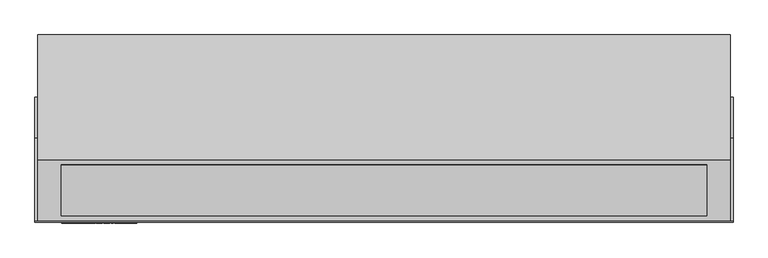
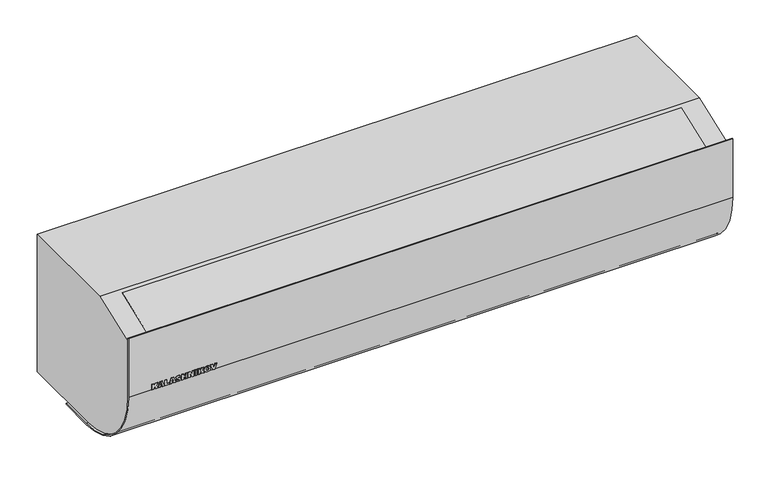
"""IFC4 building model written with IfcOpenShell, lengths in millimetres: proxy geometry, ИЗТТ_Завеса_Электрическая : KVC-C10E12-31."""

from ifc_helpers import new_model, si_unit, point, frame, frame_2d, origin, place, context, project, spatial, polyline, circle_curve, trimmed, segment, composite_curve, outline, extrude, source, transform, mapped, element, save
from ifc_brep_helpers import plane_surface, cylinder_surface, advanced_brep


def mechanical_equipment_031cc24c(model_context):
    return source(origin(), model_context, "Body", "SolidModel", [
        extrude(outline(polyline([(139.0, -491.5196078), (129.0, -491.5196078), (129.0, -488.3823529), (130.7647059, -488.3823529), (132.7745098, -486.6115196), (129.0, -484.7794118), (129.0, -480.9313725), (135.2775735, -484.4056373), (139.0, -481.127451), (139.0, -485.3982843), (135.2224265, -488.3823529), (139.0, -488.3823529), (139.0, -491.5196078)])), frame((0.0, -287.0, 0.0), z_axis=(0.0, 1.0, 0.0), x_axis=(0.0, 0.0, 1.0)), (0.0, 0.0, 1.0), 1.0),
        extrude(outline(polyline([(130.5686275, -473.9338235), (129.0, -473.4803922), (129.0, -470.1470588), (139.0, -473.5202206), (139.0, -477.5582108), (129.0, -480.9313725), (129.0, -477.5980392), (130.5686275, -477.1660539), (130.5686275, -473.9338235)]), holes=[polyline([(132.9215686, -474.5281863), (132.9215686, -476.5165441), (136.4540441, -475.5392157), (132.9215686, -474.5281863)])]), frame((0.0, -287.0, 0.0), z_axis=(0.0, 1.0, 0.0), x_axis=(0.0, 0.0, 1.0)), (0.0, 0.0, 1.0), 1.0),
        extrude(outline(polyline([(139.0, -469.1666667), (129.0, -469.1666667), (129.0, -461.3235294), (131.3529412, -461.3235294), (131.3529412, -466.0294118), (139.0, -466.0294118), (139.0, -469.1666667)])), frame((0.0, -287.0, 0.0), z_axis=(0.0, 1.0, 0.0), x_axis=(0.0, 0.0, 1.0)), (0.0, 0.0, 1.0), 1.0),
        extrude(outline(polyline([(130.5686275, -453.9338235), (129.0, -453.4803922), (129.0, -450.1470588), (139.0, -453.5202206), (139.0, -457.5582108), (129.0, -460.9313725), (129.0, -457.5980392), (130.5686275, -457.1660539), (130.5686275, -453.9338235)]), holes=[polyline([(132.9215686, -454.5281863), (132.9215686, -456.5165441), (136.4540441, -455.5392157), (132.9215686, -454.5281863)])]), frame((0.0, -287.0, 0.0), z_axis=(0.0, 1.0, 0.0), x_axis=(0.0, 0.0, 1.0)), (0.0, 0.0, 1.0), 1.0),
        extrude(outline(polyline([(132.3394608, -449.754902), (129.8026961, -448.6488971), (128.8039216, -445.1378676), (129.2297794, -442.7420343), (130.4813113, -441.2637868), (132.28125, -440.7352941), (133.7870711, -441.1305147), (134.9129902, -442.3958333), (135.8106618, -445.2757353), (137.4313725, -445.4074755), (137.1050858, -444.6338848), (136.0588235, -444.2647059), (136.2395833, -441.127451), (138.4883578, -442.3054534), (139.1960784, -445.1807598), (138.8039216, -447.6011029), (137.7285539, -448.9231005), (136.276348, -449.3627451), (134.3492647, -448.4957108), (133.1237745, -445.6219363), (131.8186275, -443.872549), (131.0818015, -444.1865809), (130.7647059, -445.0796569), (131.3958333, -446.2775735), (132.5294118, -446.6176471), (132.3394608, -449.754902)])), frame((0.0, -287.0, 0.0), z_axis=(0.0, 1.0, 0.0), x_axis=(0.0, 0.0, 1.0)), (0.0, 0.0, 1.0), 1.0),
        extrude(outline(polyline([(139.0, -439.1666667), (129.0, -439.1666667), (129.0, -436.0294118), (133.1176471, -436.0294118), (133.1176471, -432.6960784), (129.0, -432.6960784), (129.0, -429.5588235), (139.0, -429.5588235), (139.0, -432.6960784), (135.4705882, -432.6960784), (135.4705882, -436.0294118), (139.0, -436.0294118), (139.0, -439.1666667)])), frame((0.0, -287.0, 0.0), z_axis=(0.0, 1.0, 0.0), x_axis=(0.0, 0.0, 1.0)), (0.0, 0.0, 1.0), 1.0),
        extrude(outline(polyline([(139.0, -427.5980392), (129.0, -427.5980392), (129.0, -424.6568627), (134.4901961, -424.6568627), (129.0, -420.9313725), (129.0, -417.9901961), (139.0, -417.9901961), (139.0, -420.9313725), (133.4730392, -420.9313725), (139.0, -424.6783088), (139.0, -427.5980392)])), frame((0.0, -287.0, 0.0), z_axis=(0.0, 1.0, 0.0), x_axis=(0.0, 0.0, 1.0)), (0.0, 0.0, 1.0), 1.0),
        extrude(outline(polyline([(-412.6960784, -287.0), (-415.8333333, -287.0), (-415.8333333, -286.0), (-412.6960784, -286.0), (-412.6960784, -287.0)])), frame((0.0, 0.0, 129.0), z_axis=(0.0, 0.0, 1.0), x_axis=(1.0, 0.0, 0.0)), (0.0, 0.0, 1.0), 10.0),
        extrude(outline(polyline([(139.0, -410.5392157), (129.0, -410.5392157), (129.0, -407.4019608), (130.7647059, -407.4019608), (132.7745098, -405.6311275), (129.0, -403.7990196), (129.0, -399.9509804), (135.2775735, -403.4252451), (139.0, -400.1470588), (139.0, -404.4178922), (135.2224265, -407.4019608), (139.0, -407.4019608), (139.0, -410.5392157)])), frame((0.0, -287.0, 0.0), z_axis=(0.0, 1.0, 0.0), x_axis=(0.0, 0.0, 1.0)), (0.0, 0.0, 1.0), 1.0),
        extrude(outline(polyline([(133.9938725, -399.3627451), (131.0603554, -398.671875), (129.346201, -396.8688725), (128.8039216, -394.0594363), (129.4304534, -391.2729779), (131.1859681, -389.5618873), (134.0765931, -388.9705882), (137.8495711, -390.3247549), (139.1960784, -394.185049), (137.8250613, -397.9947917), (133.9938725, -399.3627451)]), holes=[polyline([(133.9938725, -396.2254902), (136.1813725, -395.6678922), (136.8431373, -394.1911765), (136.1920956, -392.6685049), (134.1286765, -392.1078431), (131.8048407, -392.645527), (131.1568627, -394.1636029), (131.8186275, -395.6709559), (133.9938725, -396.2254902)])]), frame((0.0, -287.0, 0.0), z_axis=(0.0, 1.0, 0.0), x_axis=(0.0, 0.0, 1.0)), (0.0, 0.0, 1.0), 1.0),
        extrude(outline(polyline([(139.0, -388.1862745), (129.0, -384.4699755), (129.0, -381.1397059), (139.0, -377.4019608), (139.0, -380.7352941), (131.8033088, -382.7941176), (139.0, -384.8560049), (139.0, -388.1862745)])), frame((0.0, -287.0, 0.0), z_axis=(0.0, 1.0, 0.0), x_axis=(0.0, 0.0, 1.0)), (0.0, 0.0, 1.0), 1.0),
        extrude(outline(polyline([(-19.2222222, 10.0), (-19.2222222, 0.0), (-34.4444444, 10.0), (-34.4444444, 0.0), (-49.6666667, 10.0), (-49.6666667, 0.0), (-64.8888889, 10.0), (-64.8888889, 0.0), (-80.1111111, 10.0), (-80.1111111, 0.0), (-95.2499831, 10.5360909), (-4.0, 10.5360909), (-4.0, 0.0), (-19.2222222, 10.0)])), frame((-492.5, 0.0, 0.0), z_axis=(1.0, 0.0, 0.0), x_axis=(0.0, 1.0, 0.0)), (0.0, 0.0, 1.0), 985.0),
        advanced_brep(
        [(528.5, -190.6666667, 258.0), (528.5, -284.0, 223.0), (528.5, -284.0, 129.0), (528.5, -157.0, 2.0), (528.5, 0.0, 2.0), (528.5, 0.0, 258.0), (-528.5, -190.6666667, 258.0), (-528.5, 0.0, 258.0), (-528.5, 0.0, 2.0), (-528.5, -157.0, 2.0), (-528.5, -284.0, 129.0), (-528.5, -284.0, 223.0), (492.5, -4.0, 2.0), (-492.5, -4.0, 2.0), (-492.5, -95.3333333, 2.0), (492.5, -95.3333333, 2.0), (492.5, -4.0, 10.0), (492.5, -95.3333333, 10.0), (-492.5, -95.3333333, 10.0), (-492.5, -4.0, 10.0)],
        [
            (0, 1),
            (1, 2),
            (2, 3, circle_curve(frame((528.5, -157.0, 129.0), z_axis=(1.0, 0.0, 0.0), x_axis=(0.0, 1.0, 0.0)), 127.0)),
            (3, 4),
            (4, 5),
            (5, 0),
            (6, 7),
            (7, 8),
            (8, 9),
            (9, 10, circle_curve(frame((-528.5, -157.0, 129.0), z_axis=(-1.0, 0.0, 0.0), x_axis=(0.0, 1.0, 0.0)), 127.0)),
            (10, 11),
            (11, 6),
            (1, 11),
            (10, 2),
            (4, 8),
            (7, 5),
            (6, 0),
            (9, 3),
            (12, 13),
            (13, 14),
            (14, 15),
            (15, 12),
            (16, 17),
            (17, 18),
            (18, 19),
            (19, 16),
            (19, 13),
            (12, 16),
            (18, 14),
            (17, 15),
        ],
        [
            plane_surface(frame((528.5, -190.6666667, 258.0), z_axis=(1.0000000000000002, 0.0, 0.0), x_axis=(0.0, -0.9363291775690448, -0.3511234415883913))),
            plane_surface(frame((-528.5, -190.6666667, 258.0), z_axis=(-1.0000000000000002, 0.0, 0.0), x_axis=(0.0, 0.9363291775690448, 0.3511234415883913))),
            plane_surface(frame((528.5, -284.0, 223.0), z_axis=(0.0, -1.0, 0.0), x_axis=(-1.0, 0.0, 0.0))),
            plane_surface(frame((528.5, 0.0, 2.0), z_axis=(0.0, 1.0, 0.0), x_axis=(-1.0, 0.0, 0.0))),
            plane_surface(frame((528.5, 0.0, 258.0), z_axis=(0.0, 0.0, 1.0), x_axis=(-1.0, 0.0, 0.0))),
            cylinder_surface(frame((-528.5, -157.0, 129.0), z_axis=(1.0, 0.0, 0.0), x_axis=(0.0, 1.0, 0.0)), 127.0),
            plane_surface(frame((528.5, -157.0, 2.0), z_axis=(0.0, 0.0, -1.0), x_axis=(-1.0, 0.0, 0.0))),
            plane_surface(frame((528.5, -190.6666667, 258.0), z_axis=(0.0, -0.3511234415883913, 0.9363291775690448), x_axis=(-1.0, 0.0, 0.0))),
            plane_surface(frame((-492.5, -4.0, 10.0), z_axis=(0.0, 0.0, -1.0), x_axis=(-1.0, 0.0, 0.0))),
            plane_surface(frame((492.5, -4.0, 10.0), z_axis=(0.0, -1.0, 0.0), x_axis=(0.0, 0.0, -1.0))),
            plane_surface(frame((-492.5, -4.0, 10.0), z_axis=(1.0, 0.0, 0.0), x_axis=(0.0, 0.0, -1.0))),
            plane_surface(frame((-492.5, -95.3333333, 10.0), z_axis=(0.0, 1.0, 0.0), x_axis=(0.0, 0.0, -1.0))),
            plane_surface(frame((492.5, -95.3333333, 10.0), z_axis=(-1.0, 0.0, 0.0), x_axis=(0.0, 0.0, -1.0))),
        ],
        [
            (0, [[1, 2, 3, 4, 5, 6]]),
            (1, [[7, 8, 9, 10, 11, 12]]),
            (2, [[-2, 13, -11, 14]]),
            (3, [[-5, 15, -8, 16]]),
            (4, [[-6, -16, -7, 17]]),
            (5, [[-3, -14, -10, 18]]),
            (6, [[-4, -18, -9, -15], [19, 20, 21, 22]]),
            (7, [[-1, -17, -12, -13]]),
            (8, [[23, 24, 25, 26]]),
            (9, [[-26, 27, -19, 28]]),
            (10, [[-25, 29, -20, -27]]),
            (11, [[-24, 30, -21, -29]]),
            (12, [[-23, -28, -22, -30]]),
        ],
    ),
        extrude(outline(polyline([(0.0, -83.2824191), (0.0, 0.0), (985.0, 0.0), (985.0, -83.2824191), (0.0, -83.2824191)])), frame((492.5, -275.390912, 225.5666685), z_axis=(0.0, -0.3511234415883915, 0.9363291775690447), x_axis=(-1.0, 0.0, 0.0)), (0.0, 0.0, 1.0), 1.2392119),
        extrude(outline(composite_curve([segment(polyline([(-286.0, 238.0), (-284.0, 238.0), (-284.0, 129.0)]), True, "CONTINUOUS"), segment(trimmed(circle_curve(frame_2d((-157.0, 129.0)), 127.0), [point((-284.0, 129.0))], [point((-157.0, 2.0))], True, "CARTESIAN"), True, "CONTINUOUS"), segment(polyline([(-157.0, 2.0), (-95.3333333, 2.0), (-95.3333333, 0.0), (-157.0, 0.0)]), True, "CONTINUOUS"), segment(trimmed(circle_curve(frame_2d((-157.0, 129.0)), 129.0), [point((-157.0, 0.0))], [point((-286.0, 129.0))], False, "CARTESIAN"), True, "CONTINUOUS"), segment(polyline([(-286.0, 129.0), (-286.0, 238.0)]), True, "CONTINUOUS")], self_intersect=False)), frame((-532.5, 0.0, 0.0), z_axis=(1.0, 0.0, 0.0), x_axis=(0.0, 1.0, 0.0)), (0.0, 0.0, 1.0), 1065.0),
    ])


if __name__ == "__main__":
    model = new_model("IFC4")
    model_context = context("Model", 3, world=origin())
    ifc_project = project(units=[si_unit("LENGTHUNIT", "METRE", prefix="MILLI")], contexts=[model_context])
    site = spatial("IfcSite", under=ifc_project)
    building = spatial("IfcBuilding", under=site)
    placement = place(None, origin())
    mechanical_equipment_shape = mechanical_equipment_031cc24c(model_context)
    element("IfcBuildingElementProxy", 1, Name="ИЗТТ_Завеса_Электрическая : KVC-C10E12-31", ObjectType="ИЗТТ_Завеса_Электрическая : KVC-C10E12-31", at=placement, inside=building, context=model_context, shape_type="MappedRepresentation", body=[
        mapped(mechanical_equipment_shape, transform((0.0, 0.0, 0.0), x_axis=(1.0, 0.0, 0.0), y_axis=(0.0, 1.0, 0.0), z_axis=(0.0, 0.0, 1.0))),
    ])
    save(model, "model.ifc")
